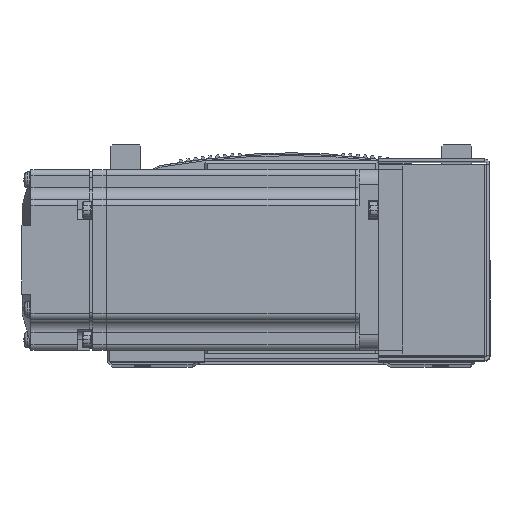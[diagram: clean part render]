
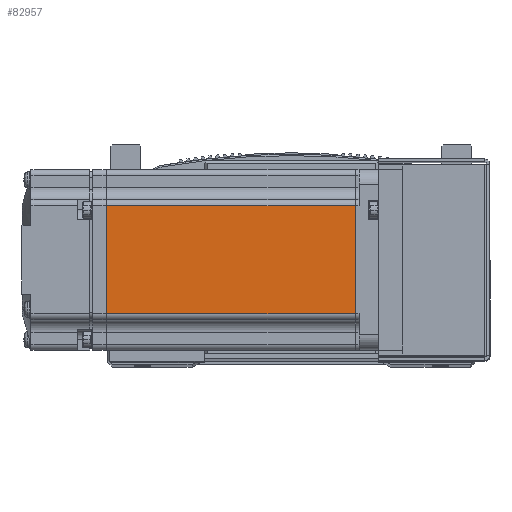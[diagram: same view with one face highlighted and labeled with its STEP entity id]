
A CAD part, top view. The second image highlights one B-rep face of the part: STEP entity #82957.
In plain terms, the highlighted planar face has unit normal (0, 0, 1) as drawn and (0, 1, 0) by its records, which use the part's own axes.
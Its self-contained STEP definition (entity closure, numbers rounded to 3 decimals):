
#2418 = EDGE_LOOP ( 'NONE', ( #29974, #30010, #29987, #29962 ) ) ;
#7456 = CARTESIAN_POINT ( 'NONE',  ( -7.75, 30., -18. ) ) ;
#7470 = CARTESIAN_POINT ( 'NONE',  ( -90.45, 30., -18. ) ) ;
#10890 = EDGE_CURVE ( 'NONE', #15915, #15907, #52436, .T. ) ;
#10926 = EDGE_CURVE ( 'NONE', #15996, #15983, #53038, .T. ) ;
#10941 = EDGE_CURVE ( 'NONE', #15983, #15915, #53092, .T. ) ;
#10946 = EDGE_CURVE ( 'NONE', #15996, #15907, #75144, .T. ) ;
#15714 = CARTESIAN_POINT ( 'NONE',  ( -7.75, 30., 18. ) ) ;
#15734 = CARTESIAN_POINT ( 'NONE',  ( -90.45, 30., 18. ) ) ;
#15907 = VERTEX_POINT ( 'NONE', #15714 ) ;
#15915 = VERTEX_POINT ( 'NONE', #15734 ) ;
#15983 = VERTEX_POINT ( 'NONE', #7470 ) ;
#15996 = VERTEX_POINT ( 'NONE', #7456 ) ;
#18257 = PLANE ( 'NONE',  #53966 ) ;
#18272 = DIRECTION ( 'NONE',  ( 0., 1., 0. ) ) ;
#18282 = CARTESIAN_POINT ( 'NONE',  ( -6.5, 30., 25. ) ) ;
#18287 = DIRECTION ( 'NONE',  ( 0., 0., 1. ) ) ;
#29962 = ORIENTED_EDGE ( 'NONE', *, *, #10890, .T. ) ;
#29974 = ORIENTED_EDGE ( 'NONE', *, *, #10946, .F. ) ;
#29987 = ORIENTED_EDGE ( 'NONE', *, *, #10941, .T. ) ;
#30010 = ORIENTED_EDGE ( 'NONE', *, *, #10926, .T. ) ;
#52355 = VECTOR ( 'NONE', #56855, 1000. ) ;
#52436 = LINE ( 'NONE', #56845, #52355 ) ;
#53038 = LINE ( 'NONE', #57126, #53041 ) ;
#53041 = VECTOR ( 'NONE', #57105, 1000. ) ;
#53092 = LINE ( 'NONE', #57246, #53377 ) ;
#53377 = VECTOR ( 'NONE', #57168, 1000. ) ;
#53966 = AXIS2_PLACEMENT_3D ( 'NONE', #18282, #18272, #18287 ) ;
#56845 = CARTESIAN_POINT ( 'NONE',  ( -6.5, 30., 18. ) ) ;
#56855 = DIRECTION ( 'NONE',  ( 1., 0., 0. ) ) ;
#57105 = DIRECTION ( 'NONE',  ( -1., 0., 0. ) ) ;
#57126 = CARTESIAN_POINT ( 'NONE',  ( -6.5, 30., -18. ) ) ;
#57168 = DIRECTION ( 'NONE',  ( 0., 0., 1. ) ) ;
#57170 = CARTESIAN_POINT ( 'NONE',  ( -7.75, 30., 0. ) ) ;
#57222 = DIRECTION ( 'NONE',  ( 0., 0., 1. ) ) ;
#57246 = CARTESIAN_POINT ( 'NONE',  ( -90.45, 30., 0. ) ) ;
#66626 = FACE_OUTER_BOUND ( 'NONE', #2418, .T. ) ;
#75135 = VECTOR ( 'NONE', #57222, 1000. ) ;
#75144 = LINE ( 'NONE', #57170, #75135 ) ;
#82957 = ADVANCED_FACE ( 'NONE', ( #66626 ), #18257, .T. ) ;
